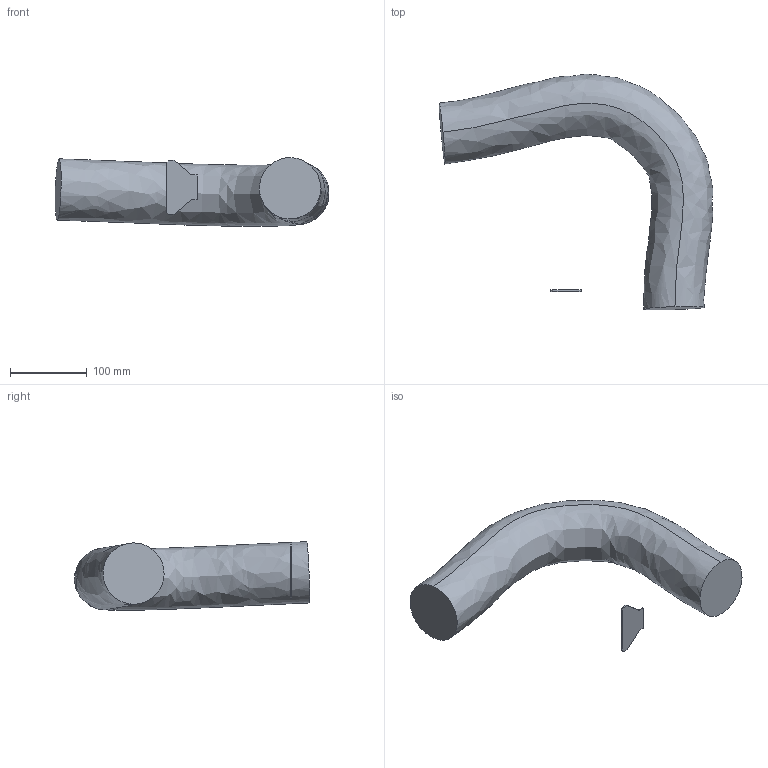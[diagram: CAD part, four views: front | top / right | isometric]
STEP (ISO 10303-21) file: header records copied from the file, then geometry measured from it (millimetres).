
FILE_DESCRIPTION (( 'STEP AP203' ), '1' );
FILE_NAME ('IRB6700_200_280_MH_CABLES_MH_link5.STEP', '2013-10-23T12:30:55', ( 'ABB' ), ( 'ABB' ), 'SwSTEP 2.0', 'SolidWorks 2012', '' );
FILE_SCHEMA (( 'CONFIG_CONTROL_DESIGN' ));
Length unit declared in the file: millimetre
Products named in the file (1): IRB6700_200_280_MH_CABLES_MH_link5
Bounding box: 357.06 x 307.35 x 89.53 mm (x, y, z)
Volume: 2669306 mm3; surface area: 147832.7 mm2
Topology: 2 solids, 2 shells, 16 faces, 36 edges, 24 vertices
Faces by surface type: plane 14, bspline 2
Entity records: 669 total; most frequent: CARTESIAN_POINT 255, ORIENTED_EDGE 72, DIRECTION 60, EDGE_CURVE 36, VECTOR 30, LINE 30, VERTEX_POINT 24, ADVANCED_FACE 16
